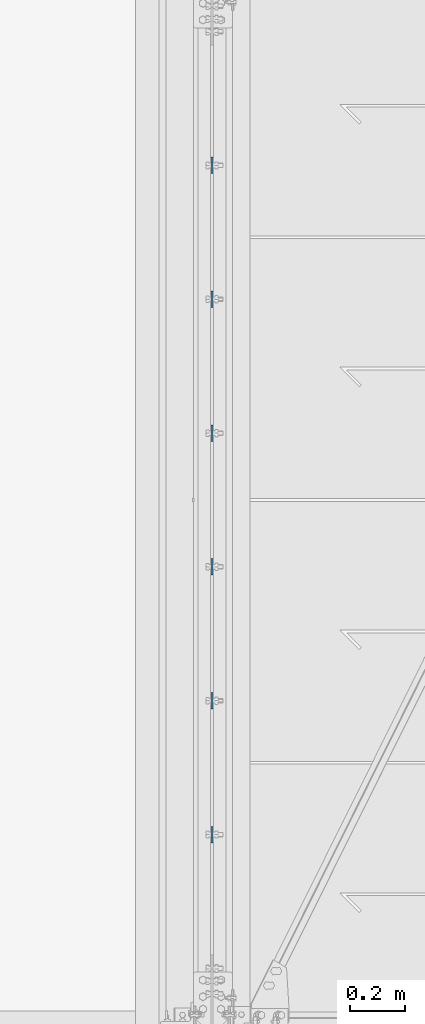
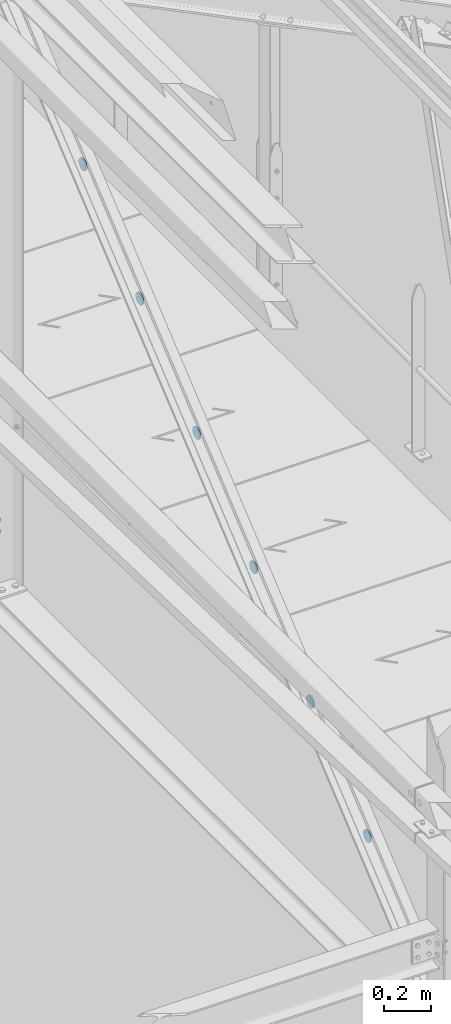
# One storey, part 127 of 362: 6 beams, 6 elements without a shape of their own.
"""IFC2X3 building model written with IfcOpenShell, lengths in millimetres."""

from ifc_helpers import new_model, si_unit, frame, frame_2d, origin_with_axes, place, context, subcontext, project, spatial, circle_curve, parameter, trimmed, segment, composite_curve, outline, extrude, material, type_object, element, aggregate, save


model = new_model("IFC2X3")

# Units and contexts
model_context = context("Model", 3, precision=1e-05, world=origin_with_axes())
body_context = subcontext(model_context, "Body", "Model", "MODEL_VIEW")
ifc_project = project(units=[si_unit("LENGTHUNIT", "METRE", prefix="MILLI"), si_unit("AREAUNIT", "SQUARE_METRE"), si_unit("VOLUMEUNIT", "CUBIC_METRE"), si_unit("MASSUNIT", "GRAM", prefix="KILO"), si_unit("TIMEUNIT", "SECOND"), si_unit("PLANEANGLEUNIT", "RADIAN"), si_unit("SOLIDANGLEUNIT", "STERADIAN"), si_unit("THERMODYNAMICTEMPERATUREUNIT", "DEGREE_CELSIUS"), si_unit("LUMINOUSINTENSITYUNIT", "LUMEN")], contexts=[model_context])

# Site, building, storey
site_placement = place(None, origin_with_axes())
site = spatial("IfcSite", under=ifc_project, at=site_placement, Name="Undefined", CompositionType="ELEMENT")
building_placement = place(site_placement, origin_with_axes())
building = spatial("IfcBuilding", under=site, at=building_placement, Name="Undefined", CompositionType="ELEMENT")
storey_placement = place(building_placement, origin_with_axes())
storey = spatial("IfcBuildingStorey", under=building, at=storey_placement, Name="Undefined", CompositionType="ELEMENT", Elevation=0.0)

# Assembly, beam
assembly_1_placement = place(storey_placement, origin_with_axes())
assembly_1 = element("IfcElementAssembly", 1, at=assembly_1_placement, inside=storey, AssemblyPlace="NOTDEFINED", PredefinedType="NOTDEFINED")
ifc_material = material(Name="Undefined/S235-E24")
beam_type = type_object("IfcBeamType", Name="TOLE8*60", PredefinedType="NOTDEFINED")
beam_1_placement = place(assembly_1_placement, frame((34280.0, 8320.89269270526, 7856.89539649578), z_axis=(-1.0, 0.0, 0.0), x_axis=(0.0, 0.0, -1.0)))
beam_1 = element("IfcBeam", 2, at=beam_1_placement, type_object=beam_type, material=ifc_material, Name="PLAQUETTE", ObjectType="TOLE8*60", context=body_context, shape_type="SweptSolid", body=[
    extrude(outline(composite_curve([segment(trimmed(circle_curve(frame_2d((30.0, 30.0), x_axis=(-1.0, 0.0)), 30.0), [parameter(0.0)], [parameter(1.5707963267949)], True, "PARAMETER"), True, "CONTINUOUS"), segment(trimmed(circle_curve(frame_2d((30.0, 30.0), x_axis=(0.0, -1.0)), 30.0), [parameter(0.0)], [parameter(1.5707963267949)], True, "PARAMETER"), True, "CONTINUOUS"), segment(trimmed(circle_curve(frame_2d((30.0, 30.0), x_axis=(1.0, 0.0)), 30.0), [parameter(0.0)], [parameter(1.5707963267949)], True, "PARAMETER"), True, "CONTINUOUS"), segment(trimmed(circle_curve(frame_2d((30.0, 30.0), x_axis=(0.0, 1.0)), 30.0), [parameter(0.0)], [parameter(1.5707963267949)], True, "PARAMETER"), True, "CONTINUOUS")], self_intersect=True)), frame((0.0, 0.0, -4.0), z_axis=(0.0, 0.0, 1.0), x_axis=(1.0, 0.0, 0.0)), (0.0, 0.0, 1.0), 8.0),
])
aggregate(assembly_1, [beam_1])

assembly_2_placement = place(storey_placement, origin_with_axes())
assembly_2 = element("IfcElementAssembly", 3, at=assembly_2_placement, inside=storey, AssemblyPlace="NOTDEFINED", PredefinedType="NOTDEFINED")
beam_2_placement = place(assembly_2_placement, frame((34280.0, 8804.53561582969, 8260.73723767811), z_axis=(-1.0, 0.0, 0.0), x_axis=(0.0, 0.0, -1.0)))
beam_2 = element("IfcBeam", 4, at=beam_2_placement, type_object=beam_type, material=ifc_material, Name="PLAQUETTE", ObjectType="TOLE8*60", context=body_context, shape_type="SweptSolid", body=[
    extrude(outline(composite_curve([segment(trimmed(circle_curve(frame_2d((30.0, 30.0), x_axis=(-1.0, 0.0)), 30.0), [parameter(0.0)], [parameter(1.5707963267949)], True, "PARAMETER"), True, "CONTINUOUS"), segment(trimmed(circle_curve(frame_2d((30.0, 30.0), x_axis=(0.0, -1.0)), 30.0), [parameter(0.0)], [parameter(1.5707963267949)], True, "PARAMETER"), True, "CONTINUOUS"), segment(trimmed(circle_curve(frame_2d((30.0, 30.0), x_axis=(1.0, 0.0)), 30.0), [parameter(0.0)], [parameter(1.5707963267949)], True, "PARAMETER"), True, "CONTINUOUS"), segment(trimmed(circle_curve(frame_2d((30.0, 30.0), x_axis=(0.0, 1.0)), 30.0), [parameter(0.0)], [parameter(1.5707963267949)], True, "PARAMETER"), True, "CONTINUOUS")], self_intersect=True)), frame((0.0, 0.0, -4.0), z_axis=(0.0, 0.0, 1.0), x_axis=(1.0, 0.0, 0.0)), (0.0, 0.0, 1.0), 8.0),
])
aggregate(assembly_2, [beam_2])

assembly_3_placement = place(storey_placement, origin_with_axes())
assembly_3 = element("IfcElementAssembly", 5, at=assembly_3_placement, inside=storey, AssemblyPlace="NOTDEFINED", PredefinedType="NOTDEFINED")
beam_3_placement = place(assembly_3_placement, frame((34280.0, 9288.17853895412, 8664.57907886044), z_axis=(-1.0, 0.0, 0.0), x_axis=(0.0, 0.0, -1.0)))
beam_3 = element("IfcBeam", 6, at=beam_3_placement, type_object=beam_type, material=ifc_material, Name="PLAQUETTE", ObjectType="TOLE8*60", context=body_context, shape_type="SweptSolid", body=[
    extrude(outline(composite_curve([segment(trimmed(circle_curve(frame_2d((30.0, 30.0), x_axis=(-1.0, 0.0)), 30.0), [parameter(0.0)], [parameter(1.5707963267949)], True, "PARAMETER"), True, "CONTINUOUS"), segment(trimmed(circle_curve(frame_2d((30.0, 30.0), x_axis=(0.0, -1.0)), 30.0), [parameter(0.0)], [parameter(1.5707963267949)], True, "PARAMETER"), True, "CONTINUOUS"), segment(trimmed(circle_curve(frame_2d((30.0, 30.0), x_axis=(1.0, 0.0)), 30.0), [parameter(0.0)], [parameter(1.5707963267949)], True, "PARAMETER"), True, "CONTINUOUS"), segment(trimmed(circle_curve(frame_2d((30.0, 30.0), x_axis=(0.0, 1.0)), 30.0), [parameter(0.0)], [parameter(1.5707963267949)], True, "PARAMETER"), True, "CONTINUOUS")], self_intersect=True)), frame((0.0, 0.0, -4.0), z_axis=(0.0, 0.0, 1.0), x_axis=(1.0, 0.0, 0.0)), (0.0, 0.0, 1.0), 8.0),
])
aggregate(assembly_3, [beam_3])

assembly_4_placement = place(storey_placement, origin_with_axes())
assembly_4 = element("IfcElementAssembly", 7, at=assembly_4_placement, inside=storey, AssemblyPlace="NOTDEFINED", PredefinedType="NOTDEFINED")
beam_4_placement = place(assembly_4_placement, frame((34280.0, 9771.82146207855, 9068.42092004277), z_axis=(-1.0, 0.0, 0.0), x_axis=(0.0, 0.0, -1.0)))
beam_4 = element("IfcBeam", 8, at=beam_4_placement, type_object=beam_type, material=ifc_material, Name="PLAQUETTE", ObjectType="TOLE8*60", context=body_context, shape_type="SweptSolid", body=[
    extrude(outline(composite_curve([segment(trimmed(circle_curve(frame_2d((30.0, 30.0), x_axis=(-1.0, 0.0)), 30.0), [parameter(0.0)], [parameter(1.5707963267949)], True, "PARAMETER"), True, "CONTINUOUS"), segment(trimmed(circle_curve(frame_2d((30.0, 30.0), x_axis=(0.0, -1.0)), 30.0), [parameter(0.0)], [parameter(1.5707963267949)], True, "PARAMETER"), True, "CONTINUOUS"), segment(trimmed(circle_curve(frame_2d((30.0, 30.0), x_axis=(1.0, 0.0)), 30.0), [parameter(0.0)], [parameter(1.5707963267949)], True, "PARAMETER"), True, "CONTINUOUS"), segment(trimmed(circle_curve(frame_2d((30.0, 30.0), x_axis=(0.0, 1.0)), 30.0), [parameter(0.0)], [parameter(1.5707963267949)], True, "PARAMETER"), True, "CONTINUOUS")], self_intersect=True)), frame((0.0, 0.0, -4.0), z_axis=(0.0, 0.0, 1.0), x_axis=(1.0, 0.0, 0.0)), (0.0, 0.0, 1.0), 8.0),
])
aggregate(assembly_4, [beam_4])

assembly_5_placement = place(storey_placement, origin_with_axes())
assembly_5 = element("IfcElementAssembly", 9, at=assembly_5_placement, inside=storey, AssemblyPlace="NOTDEFINED", PredefinedType="NOTDEFINED")
beam_5_placement = place(assembly_5_placement, frame((34280.0, 10255.464385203, 9472.2627612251), z_axis=(-1.0, 0.0, 0.0), x_axis=(0.0, 0.0, -1.0)))
beam_5 = element("IfcBeam", 10, at=beam_5_placement, type_object=beam_type, material=ifc_material, Name="PLAQUETTE", ObjectType="TOLE8*60", context=body_context, shape_type="SweptSolid", body=[
    extrude(outline(composite_curve([segment(trimmed(circle_curve(frame_2d((30.0, 30.0), x_axis=(-1.0, 0.0)), 30.0), [parameter(0.0)], [parameter(1.5707963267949)], True, "PARAMETER"), True, "CONTINUOUS"), segment(trimmed(circle_curve(frame_2d((30.0, 30.0), x_axis=(0.0, -1.0)), 30.0), [parameter(0.0)], [parameter(1.5707963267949)], True, "PARAMETER"), True, "CONTINUOUS"), segment(trimmed(circle_curve(frame_2d((30.0, 30.0), x_axis=(1.0, 0.0)), 30.0), [parameter(0.0)], [parameter(1.5707963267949)], True, "PARAMETER"), True, "CONTINUOUS"), segment(trimmed(circle_curve(frame_2d((30.0, 30.0), x_axis=(0.0, 1.0)), 30.0), [parameter(0.0)], [parameter(1.5707963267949)], True, "PARAMETER"), True, "CONTINUOUS")], self_intersect=True)), frame((0.0, 0.0, -4.0), z_axis=(0.0, 0.0, 1.0), x_axis=(1.0, 0.0, 0.0)), (0.0, 0.0, 1.0), 8.0),
])
aggregate(assembly_5, [beam_5])

assembly_6_placement = place(storey_placement, origin_with_axes())
assembly_6 = element("IfcElementAssembly", 11, at=assembly_6_placement, inside=storey, AssemblyPlace="NOTDEFINED", PredefinedType="NOTDEFINED")
beam_6_placement = place(assembly_6_placement, frame((34280.0, 10739.1073083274, 9876.10460240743), z_axis=(-1.0, 0.0, 0.0), x_axis=(0.0, 0.0, -1.0)))
beam_6 = element("IfcBeam", 12, at=beam_6_placement, type_object=beam_type, material=ifc_material, Name="PLAQUETTE", ObjectType="TOLE8*60", context=body_context, shape_type="SweptSolid", body=[
    extrude(outline(composite_curve([segment(trimmed(circle_curve(frame_2d((30.0, 30.0), x_axis=(-1.0, 0.0)), 30.0), [parameter(0.0)], [parameter(1.5707963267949)], True, "PARAMETER"), True, "CONTINUOUS"), segment(trimmed(circle_curve(frame_2d((30.0, 30.0), x_axis=(0.0, -1.0)), 30.0), [parameter(0.0)], [parameter(1.5707963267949)], True, "PARAMETER"), True, "CONTINUOUS"), segment(trimmed(circle_curve(frame_2d((30.0, 30.0), x_axis=(1.0, 0.0)), 30.0), [parameter(0.0)], [parameter(1.5707963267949)], True, "PARAMETER"), True, "CONTINUOUS"), segment(trimmed(circle_curve(frame_2d((30.0, 30.0), x_axis=(0.0, 1.0)), 30.0), [parameter(0.0)], [parameter(1.5707963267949)], True, "PARAMETER"), True, "CONTINUOUS")], self_intersect=True)), frame((0.0, 0.0, -4.0), z_axis=(0.0, 0.0, 1.0), x_axis=(1.0, 0.0, 0.0)), (0.0, 0.0, 1.0), 8.0),
])
aggregate(assembly_6, [beam_6])

save(model, "model.ifc")
